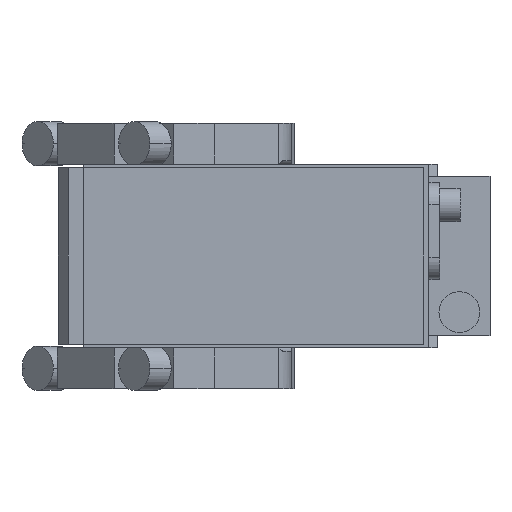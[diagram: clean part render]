
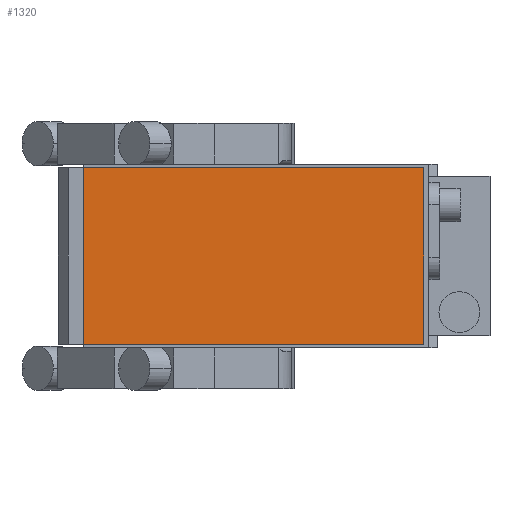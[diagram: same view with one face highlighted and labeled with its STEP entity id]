
A CAD part, front view. The second image highlights one B-rep face of the part: STEP entity #1320.
In plain terms, the highlighted planar face has unit normal (0, -1, 0).
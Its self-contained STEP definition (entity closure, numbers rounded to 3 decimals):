
#1007 = DIRECTION ( 'NONE',  ( 0., 0., 1. ) ) ;
#1320 = ADVANCED_FACE ( 'NONE', ( #5005 ), #13592, .T. ) ;
#1828 = LINE ( 'NONE', #8455, #3552 ) ;
#2357 = CARTESIAN_POINT ( 'NONE',  ( -19., -286.5, 26. ) ) ;
#2575 = ORIENTED_EDGE ( 'NONE', *, *, #2765, .T. ) ;
#2765 = EDGE_CURVE ( 'NONE', #8247, #8528, #1828, .T. ) ;
#3541 = AXIS2_PLACEMENT_3D ( 'NONE', #3934, #10559, #8220 ) ;
#3552 = VECTOR ( 'NONE', #9520, 1000. ) ;
#3801 = CARTESIAN_POINT ( 'NONE',  ( 81., -286.5, 26. ) ) ;
#3910 = VERTEX_POINT ( 'NONE', #3801 ) ;
#3934 = CARTESIAN_POINT ( 'NONE',  ( 0., -286.5, 0. ) ) ;
#4166 = VECTOR ( 'NONE', #6561, 1000. ) ;
#4301 = EDGE_CURVE ( 'NONE', #8528, #3910, #7445, .T. ) ;
#4567 = EDGE_CURVE ( 'NONE', #3910, #11347, #8582, .T. ) ;
#5005 = FACE_OUTER_BOUND ( 'NONE', #8177, .T. ) ;
#5374 = ORIENTED_EDGE ( 'NONE', *, *, #4567, .T. ) ;
#6464 = CARTESIAN_POINT ( 'NONE',  ( 81., -286.5, -26. ) ) ;
#6561 = DIRECTION ( 'NONE',  ( -1., 0., 0. ) ) ;
#7445 = LINE ( 'NONE', #9478, #12218 ) ;
#8015 = DIRECTION ( 'NONE',  ( 0., 0., -1. ) ) ;
#8177 = EDGE_LOOP ( 'NONE', ( #10803, #2575, #10436, #5374 ) ) ;
#8220 = DIRECTION ( 'NONE',  ( 0., 0., -1. ) ) ;
#8247 = VERTEX_POINT ( 'NONE', #9913 ) ;
#8455 = CARTESIAN_POINT ( 'NONE',  ( -19., -286.5, -26. ) ) ;
#8528 = VERTEX_POINT ( 'NONE', #6464 ) ;
#8582 = LINE ( 'NONE', #9921, #4166 ) ;
#8898 = VECTOR ( 'NONE', #8015, 1000. ) ;
#9478 = CARTESIAN_POINT ( 'NONE',  ( 81., -286.5, 26. ) ) ;
#9520 = DIRECTION ( 'NONE',  ( 1., 0., 0. ) ) ;
#9913 = CARTESIAN_POINT ( 'NONE',  ( -19., -286.5, -26. ) ) ;
#9921 = CARTESIAN_POINT ( 'NONE',  ( -19., -286.5, 26. ) ) ;
#10436 = ORIENTED_EDGE ( 'NONE', *, *, #4301, .T. ) ;
#10559 = DIRECTION ( 'NONE',  ( 0., -1., 0. ) ) ;
#10803 = ORIENTED_EDGE ( 'NONE', *, *, #12068, .T. ) ;
#11041 = LINE ( 'NONE', #2357, #8898 ) ;
#11347 = VERTEX_POINT ( 'NONE', #13631 ) ;
#12068 = EDGE_CURVE ( 'NONE', #11347, #8247, #11041, .T. ) ;
#12218 = VECTOR ( 'NONE', #1007, 1000. ) ;
#13592 = PLANE ( 'NONE',  #3541 ) ;
#13631 = CARTESIAN_POINT ( 'NONE',  ( -19., -286.5, 26. ) ) ;
